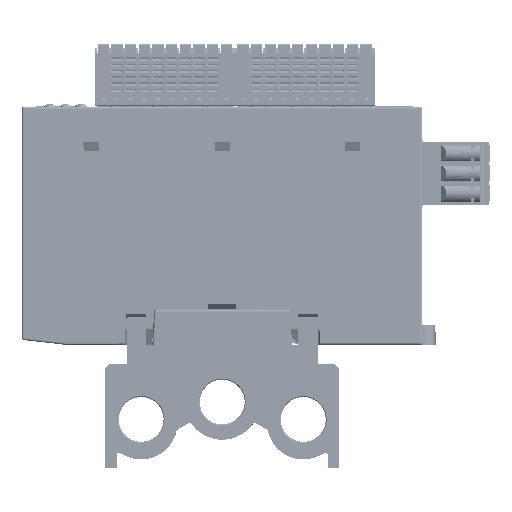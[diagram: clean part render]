
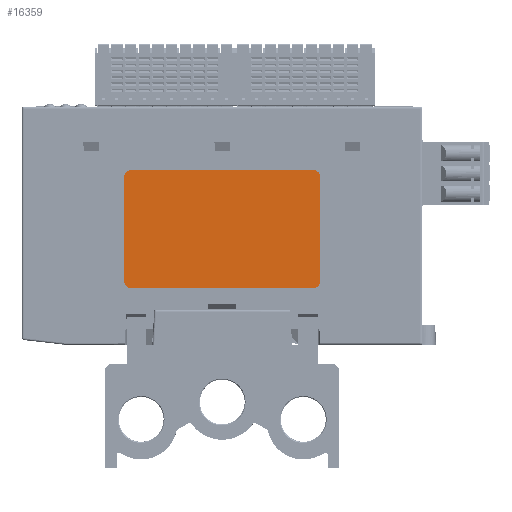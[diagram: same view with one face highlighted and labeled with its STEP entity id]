
A CAD part, front view. The second image highlights one B-rep face of the part: STEP entity #16359.
In plain terms, the highlighted planar face has unit normal (0, -1, 0).
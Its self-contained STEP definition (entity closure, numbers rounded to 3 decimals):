
#7029=FACE_OUTER_BOUND('',#70681,.T.);
#16359=ADVANCED_FACE('',(#7029),#25888,.F.);
#25888=PLANE('',#179382);
#33550=LINE('',#249859,#51563);
#33554=LINE('',#249867,#51567);
#33556=LINE('',#249871,#51569);
#33559=LINE('',#249879,#51572);
#51563=VECTOR('',#197134,1.);
#51567=VECTOR('',#197140,1.);
#51569=VECTOR('',#197144,1.);
#51572=VECTOR('',#197151,1.);
#70681=EDGE_LOOP('',(#84234,#84235,#84236,#84237,#84238,#84239,#84240,#84241));
#84234=ORIENTED_EDGE('',*,*,#150555,.F.);
#84235=ORIENTED_EDGE('',*,*,#150560,.T.);
#84236=ORIENTED_EDGE('',*,*,#150561,.F.);
#84237=ORIENTED_EDGE('',*,*,#150562,.T.);
#84238=ORIENTED_EDGE('',*,*,#150557,.F.);
#84239=ORIENTED_EDGE('',*,*,#150563,.T.);
#84240=ORIENTED_EDGE('',*,*,#150551,.F.);
#84241=ORIENTED_EDGE('',*,*,#150564,.T.);
#133438=VERTEX_POINT('',#249860);
#133439=VERTEX_POINT('',#249861);
#133440=VERTEX_POINT('',#249866);
#133441=VERTEX_POINT('',#249868);
#133442=VERTEX_POINT('',#249872);
#133443=VERTEX_POINT('',#249873);
#133444=VERTEX_POINT('',#249878);
#133445=VERTEX_POINT('',#249880);
#150551=EDGE_CURVE('',#133438,#133439,#33550,.T.);
#150555=EDGE_CURVE('',#133440,#133441,#33554,.T.);
#150557=EDGE_CURVE('',#133442,#133443,#33556,.T.);
#150560=EDGE_CURVE('',#133440,#133444,#173969,.T.);
#150561=EDGE_CURVE('',#133445,#133444,#33559,.T.);
#150562=EDGE_CURVE('',#133445,#133443,#173970,.T.);
#150563=EDGE_CURVE('',#133442,#133439,#173971,.T.);
#150564=EDGE_CURVE('',#133438,#133441,#173972,.T.);
#173969=CIRCLE('',#179378,1.8);
#173970=CIRCLE('',#179379,1.8);
#173971=CIRCLE('',#179380,1.8);
#173972=CIRCLE('',#179381,1.8);
#179378=AXIS2_PLACEMENT_3D('',#249877,#197149,#197150);
#179379=AXIS2_PLACEMENT_3D('',#249881,#197152,#197153);
#179380=AXIS2_PLACEMENT_3D('',#249882,#197154,#197155);
#179381=AXIS2_PLACEMENT_3D('',#249883,#197156,#197157);
#179382=AXIS2_PLACEMENT_3D('',#249884,#197158,#197159);
#197134=DIRECTION('',(0.,0.,-1.));
#197140=DIRECTION('',(1.,0.,0.));
#197144=DIRECTION('',(-1.,0.,0.));
#197149=DIRECTION('',(0.,-1.,0.));
#197150=DIRECTION('',(0.,0.,1.));
#197151=DIRECTION('',(0.,0.,1.));
#197152=DIRECTION('',(0.,-1.,0.));
#197153=DIRECTION('',(0.,0.,-1.));
#197154=DIRECTION('',(0.,-1.,0.));
#197155=DIRECTION('',(0.,0.,-1.));
#197156=DIRECTION('',(0.,-1.,0.));
#197157=DIRECTION('',(0.,0.,-1.));
#197158=DIRECTION('',(0.,1.,0.));
#197159=DIRECTION('',(0.,0.,-1.));
#249859=CARTESIAN_POINT('',(525.15,-402.14,34.634));
#249860=CARTESIAN_POINT('',(525.15,-402.14,47.934));
#249861=CARTESIAN_POINT('',(525.15,-402.14,21.334));
#249866=CARTESIAN_POINT('',(476.75,-402.14,49.734));
#249867=CARTESIAN_POINT('',(500.05,-402.14,49.734));
#249868=CARTESIAN_POINT('',(523.35,-402.14,49.734));
#249871=CARTESIAN_POINT('',(475.05,-402.14,19.534));
#249872=CARTESIAN_POINT('',(523.35,-402.14,19.534));
#249873=CARTESIAN_POINT('',(476.75,-402.14,19.534));
#249877=CARTESIAN_POINT('',(476.75,-402.14,47.934));
#249878=CARTESIAN_POINT('',(474.95,-402.14,47.934));
#249879=CARTESIAN_POINT('',(474.95,-402.14,34.634));
#249880=CARTESIAN_POINT('',(474.95,-402.14,21.334));
#249881=CARTESIAN_POINT('',(476.75,-402.14,21.334));
#249882=CARTESIAN_POINT('',(523.35,-402.14,21.334));
#249883=CARTESIAN_POINT('',(523.35,-402.14,47.934));
#249884=CARTESIAN_POINT('',(500.041,-402.14,23.341));
